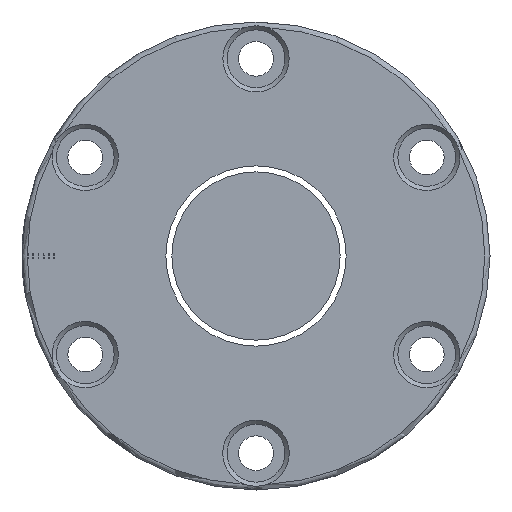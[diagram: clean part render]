
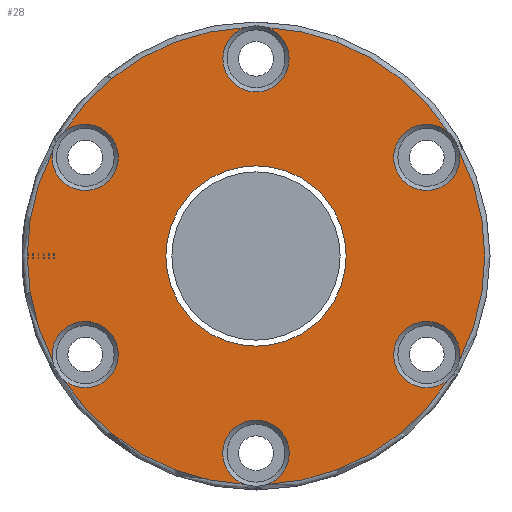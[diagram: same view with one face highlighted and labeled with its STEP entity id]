
A CAD part, left-side view. The second image highlights one B-rep face of the part: STEP entity #28.
In plain terms, the highlighted planar face has unit normal (-1, 0, 0).
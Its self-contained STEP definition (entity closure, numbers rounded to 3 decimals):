
#21 = DIRECTION ( 'NONE',  ( 1., 0., 0. ) ) ;
#28 = ADVANCED_FACE ( 'NONE', ( #358, #2663 ), #2932, .T. ) ;
#40 = CARTESIAN_POINT ( 'NONE',  ( -60., 32.476, 18.75 ) ) ;
#66 = VERTEX_POINT ( 'NONE', #534 ) ;
#104 = CIRCLE ( 'NONE', #2429, 43.5 ) ;
#116 = AXIS2_PLACEMENT_3D ( 'NONE', #40, #2868, #1407 ) ;
#131 = ORIENTED_EDGE ( 'NONE', *, *, #2832, .T. ) ;
#165 = AXIS2_PLACEMENT_3D ( 'NONE', #199, #1404, #1210 ) ;
#199 = CARTESIAN_POINT ( 'NONE',  ( -60., 0., 0. ) ) ;
#248 = DIRECTION ( 'NONE',  ( 1., 0., 0. ) ) ;
#250 = CIRCLE ( 'NONE', #1538, 6.3 ) ;
#252 = CARTESIAN_POINT ( 'NONE',  ( -60., 32.476, -18.75 ) ) ;
#255 = CIRCLE ( 'NONE', #1158, 43.5 ) ;
#282 = CARTESIAN_POINT ( 'NONE',  ( -60., 0., 0. ) ) ;
#291 = CARTESIAN_POINT ( 'NONE',  ( -60., 38.664, -19.934 ) ) ;
#344 = EDGE_CURVE ( 'NONE', #1408, #2308, #1932, .T. ) ;
#358 = FACE_OUTER_BOUND ( 'NONE', #2757, .T. ) ;
#367 = ORIENTED_EDGE ( 'NONE', *, *, #1557, .T. ) ;
#401 = CARTESIAN_POINT ( 'NONE',  ( -60., 36.595, 23.517 ) ) ;
#402 = EDGE_CURVE ( 'NONE', #1500, #2045, #2631, .T. ) ;
#409 = ORIENTED_EDGE ( 'NONE', *, *, #344, .T. ) ;
#410 = EDGE_CURVE ( 'NONE', #1381, #1396, #250, .T. ) ;
#443 = DIRECTION ( 'NONE',  ( 0., 0., 1. ) ) ;
#465 = DIRECTION ( 'NONE',  ( 0., 0., 1. ) ) ;
#466 = CIRCLE ( 'NONE', #1266, 43.5 ) ;
#478 = ORIENTED_EDGE ( 'NONE', *, *, #2464, .T. ) ;
#481 = DIRECTION ( 'NONE',  ( 0., 0., 1. ) ) ;
#485 = CARTESIAN_POINT ( 'NONE',  ( -60., 0., 0. ) ) ;
#520 = DIRECTION ( 'NONE',  ( 0., 0., 1. ) ) ;
#534 = CARTESIAN_POINT ( 'NONE',  ( -60., 0., -17.15 ) ) ;
#600 = DIRECTION ( 'NONE',  ( -1., 0., 0. ) ) ;
#627 = VERTEX_POINT ( 'NONE', #1985 ) ;
#632 = EDGE_CURVE ( 'NONE', #2045, #1381, #104, .T. ) ;
#642 = VERTEX_POINT ( 'NONE', #401 ) ;
#660 = CARTESIAN_POINT ( 'NONE',  ( -60., 38.664, 19.934 ) ) ;
#696 = CARTESIAN_POINT ( 'NONE',  ( -60., -36.595, -23.517 ) ) ;
#701 = DIRECTION ( 'NONE',  ( -1., 0., 0. ) ) ;
#704 = CARTESIAN_POINT ( 'NONE',  ( -60., 0., 37.5 ) ) ;
#738 = CARTESIAN_POINT ( 'NONE',  ( -60., 0., -37.5 ) ) ;
#766 = DIRECTION ( 'NONE',  ( 0., 0., 1. ) ) ;
#854 = EDGE_CURVE ( 'NONE', #1396, #1408, #255, .T. ) ;
#880 = VERTEX_POINT ( 'NONE', #1929 ) ;
#981 = DIRECTION ( 'NONE',  ( 1., 0., 0. ) ) ;
#1042 = CARTESIAN_POINT ( 'NONE',  ( -60., -32.476, -18.75 ) ) ;
#1063 = AXIS2_PLACEMENT_3D ( 'NONE', #2701, #2923, #443 ) ;
#1064 = AXIS2_PLACEMENT_3D ( 'NONE', #2609, #701, #1840 ) ;
#1075 = DIRECTION ( 'NONE',  ( 0., 0., 1. ) ) ;
#1104 = DIRECTION ( 'NONE',  ( 1., 0., 0. ) ) ;
#1116 = ORIENTED_EDGE ( 'NONE', *, *, #2501, .T. ) ;
#1119 = AXIS2_PLACEMENT_3D ( 'NONE', #2128, #21, #1226 ) ;
#1155 = CARTESIAN_POINT ( 'NONE',  ( -60., 0., 0. ) ) ;
#1158 = AXIS2_PLACEMENT_3D ( 'NONE', #1155, #2087, #3019 ) ;
#1210 = DIRECTION ( 'NONE',  ( 0., 0., 1. ) ) ;
#1226 = DIRECTION ( 'NONE',  ( 0., 0., -1. ) ) ;
#1266 = AXIS2_PLACEMENT_3D ( 'NONE', #485, #1643, #465 ) ;
#1324 = CARTESIAN_POINT ( 'NONE',  ( -60., 44.5, 0. ) ) ;
#1345 = EDGE_LOOP ( 'NONE', ( #131 ) ) ;
#1351 = DIRECTION ( 'NONE',  ( 0., 0., 1. ) ) ;
#1381 = VERTEX_POINT ( 'NONE', #2813 ) ;
#1396 = VERTEX_POINT ( 'NONE', #1658 ) ;
#1404 = DIRECTION ( 'NONE',  ( -1., 0., 0. ) ) ;
#1407 = DIRECTION ( 'NONE',  ( 0., 0., 1. ) ) ;
#1408 = VERTEX_POINT ( 'NONE', #696 ) ;
#1419 = CIRCLE ( 'NONE', #1119, 17.15 ) ;
#1420 = EDGE_CURVE ( 'NONE', #2746, #1500, #466, .T. ) ;
#1452 = AXIS2_PLACEMENT_3D ( 'NONE', #252, #981, #1910 ) ;
#1467 = CIRCLE ( 'NONE', #2686, 6.3 ) ;
#1500 = VERTEX_POINT ( 'NONE', #291 ) ;
#1538 = AXIS2_PLACEMENT_3D ( 'NONE', #738, #1104, #2929 ) ;
#1557 = EDGE_CURVE ( 'NONE', #627, #880, #2400, .T. ) ;
#1571 = CARTESIAN_POINT ( 'NONE',  ( -60., -38.664, -19.934 ) ) ;
#1587 = CARTESIAN_POINT ( 'NONE',  ( -60., -2.068, 43.451 ) ) ;
#1590 = ORIENTED_EDGE ( 'NONE', *, *, #1420, .T. ) ;
#1643 = DIRECTION ( 'NONE',  ( -1., 0., 0. ) ) ;
#1655 = CIRCLE ( 'NONE', #2194, 43.5 ) ;
#1658 = CARTESIAN_POINT ( 'NONE',  ( -60., -2.068, -43.451 ) ) ;
#1704 = CIRCLE ( 'NONE', #165, 43.5 ) ;
#1707 = CARTESIAN_POINT ( 'NONE',  ( -60., 36.595, -23.517 ) ) ;
#1719 = DIRECTION ( 'NONE',  ( -1., 0., 0. ) ) ;
#1725 = ORIENTED_EDGE ( 'NONE', *, *, #1853, .T. ) ;
#1759 = EDGE_CURVE ( 'NONE', #2219, #2381, #1467, .T. ) ;
#1785 = ORIENTED_EDGE ( 'NONE', *, *, #632, .T. ) ;
#1840 = DIRECTION ( 'NONE',  ( 0., 0., 1. ) ) ;
#1853 = EDGE_CURVE ( 'NONE', #642, #2746, #1984, .T. ) ;
#1910 = DIRECTION ( 'NONE',  ( 0., 0., 1. ) ) ;
#1929 = CARTESIAN_POINT ( 'NONE',  ( -60., -36.595, 23.517 ) ) ;
#1932 = CIRCLE ( 'NONE', #2913, 6.3 ) ;
#1984 = CIRCLE ( 'NONE', #116, 6.3 ) ;
#1985 = CARTESIAN_POINT ( 'NONE',  ( -60., -38.664, 19.934 ) ) ;
#2035 = EDGE_CURVE ( 'NONE', #2308, #627, #1655, .T. ) ;
#2045 = VERTEX_POINT ( 'NONE', #1707 ) ;
#2077 = ORIENTED_EDGE ( 'NONE', *, *, #2035, .T. ) ;
#2081 = ORIENTED_EDGE ( 'NONE', *, *, #854, .T. ) ;
#2087 = DIRECTION ( 'NONE',  ( -1., 0., 0. ) ) ;
#2128 = CARTESIAN_POINT ( 'NONE',  ( -60., 0., 0. ) ) ;
#2138 = AXIS2_PLACEMENT_3D ( 'NONE', #1324, #1719, #1075 ) ;
#2173 = DIRECTION ( 'NONE',  ( -1., 0., 0. ) ) ;
#2194 = AXIS2_PLACEMENT_3D ( 'NONE', #282, #2173, #766 ) ;
#2219 = VERTEX_POINT ( 'NONE', #1587 ) ;
#2223 = CARTESIAN_POINT ( 'NONE',  ( -60., 0., 0. ) ) ;
#2308 = VERTEX_POINT ( 'NONE', #1571 ) ;
#2347 = DIRECTION ( 'NONE',  ( 1., 0., 0. ) ) ;
#2381 = VERTEX_POINT ( 'NONE', #2758 ) ;
#2400 = CIRCLE ( 'NONE', #1063, 6.3 ) ;
#2426 = ORIENTED_EDGE ( 'NONE', *, *, #410, .T. ) ;
#2429 = AXIS2_PLACEMENT_3D ( 'NONE', #2223, #600, #1351 ) ;
#2464 = EDGE_CURVE ( 'NONE', #880, #2219, #1704, .T. ) ;
#2488 = CIRCLE ( 'NONE', #1064, 43.5 ) ;
#2501 = EDGE_CURVE ( 'NONE', #2381, #642, #2488, .T. ) ;
#2609 = CARTESIAN_POINT ( 'NONE',  ( -60., 0., 0. ) ) ;
#2631 = CIRCLE ( 'NONE', #1452, 6.3 ) ;
#2663 = FACE_BOUND ( 'NONE', #1345, .T. ) ;
#2686 = AXIS2_PLACEMENT_3D ( 'NONE', #704, #248, #520 ) ;
#2701 = CARTESIAN_POINT ( 'NONE',  ( -60., -32.476, 18.75 ) ) ;
#2746 = VERTEX_POINT ( 'NONE', #660 ) ;
#2757 = EDGE_LOOP ( 'NONE', ( #2953, #1116, #1725, #1590, #3014, #1785, #2426, #2081, #409, #2077, #367, #478 ) ) ;
#2758 = CARTESIAN_POINT ( 'NONE',  ( -60., 2.068, 43.451 ) ) ;
#2813 = CARTESIAN_POINT ( 'NONE',  ( -60., 2.068, -43.451 ) ) ;
#2832 = EDGE_CURVE ( 'NONE', #66, #66, #1419, .T. ) ;
#2868 = DIRECTION ( 'NONE',  ( 1., 0., 0. ) ) ;
#2913 = AXIS2_PLACEMENT_3D ( 'NONE', #1042, #2347, #481 ) ;
#2923 = DIRECTION ( 'NONE',  ( 1., 0., 0. ) ) ;
#2929 = DIRECTION ( 'NONE',  ( 0., 0., 1. ) ) ;
#2932 = PLANE ( 'NONE',  #2138 ) ;
#2953 = ORIENTED_EDGE ( 'NONE', *, *, #1759, .T. ) ;
#3014 = ORIENTED_EDGE ( 'NONE', *, *, #402, .T. ) ;
#3019 = DIRECTION ( 'NONE',  ( 0., 0., 1. ) ) ;
